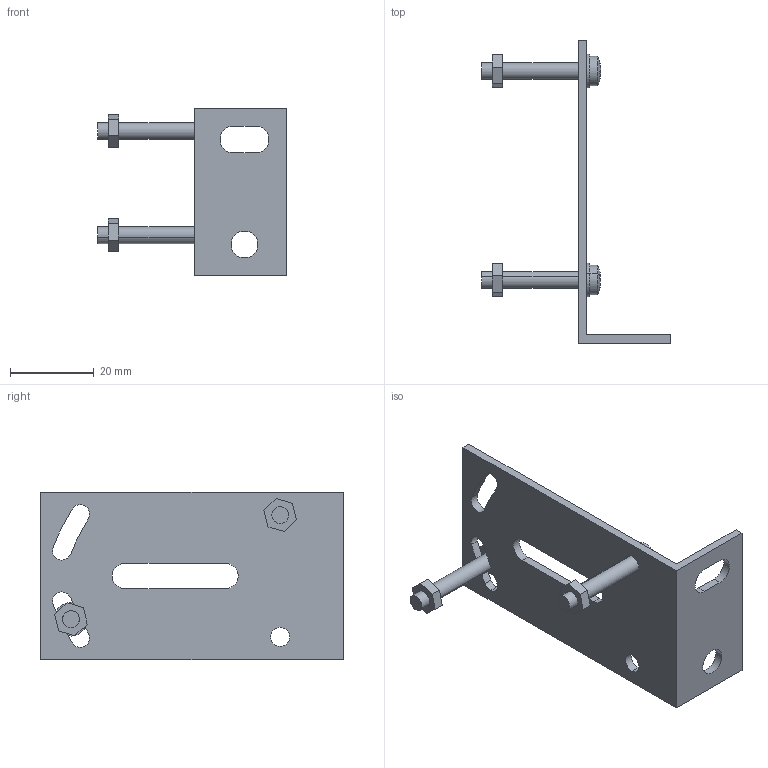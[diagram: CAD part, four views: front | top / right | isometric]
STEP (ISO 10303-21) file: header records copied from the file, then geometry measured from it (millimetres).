
FILE_DESCRIPTION (( 'STEP AP203' ), '1' );
FILE_NAME ('MS-NX5-1.STEP', '2005-11-10T00:53:36', ( '' ), ( '' ), 'SwSTEP 2.0', 'SolidWorks 2004073', '' );
FILE_SCHEMA (( 'CONFIG_CONTROL_DESIGN' ));
Length unit declared in the file: millimetre
Products named in the file (4): MS-NX5-1; M4L25add_fw_蹬怮椔; M4S7T2.4hex_nut_蹬怮椔; MS-NX5-1_蹬怮椔
Assembly tree (5 placements, depth 2):
  MS-NX5-1
    M4S7T2.4hex_nut_蹬怮椔  x2
    M4L25add_fw_蹬怮椔  x2
    MS-NX5-1_蹬怮椔
Bounding box: 45 x 72 x 40 mm (x, y, z)
Volume: 7516.8 mm3; surface area: 8771.5 mm2
Topology: 5 solids, 5 shells, 101 faces, 257 edges, 170 vertices
Faces by surface type: plane 60, cylinder 37, sphere 4
Entity records: 2597 total; most frequent: DIRECTION 399, CARTESIAN_POINT 366, ORIENTED_EDGE 350, EDGE_CURVE 175, AXIS2_PLACEMENT_3D 149, VERTEX_POINT 116, VECTOR 101, LINE 101
